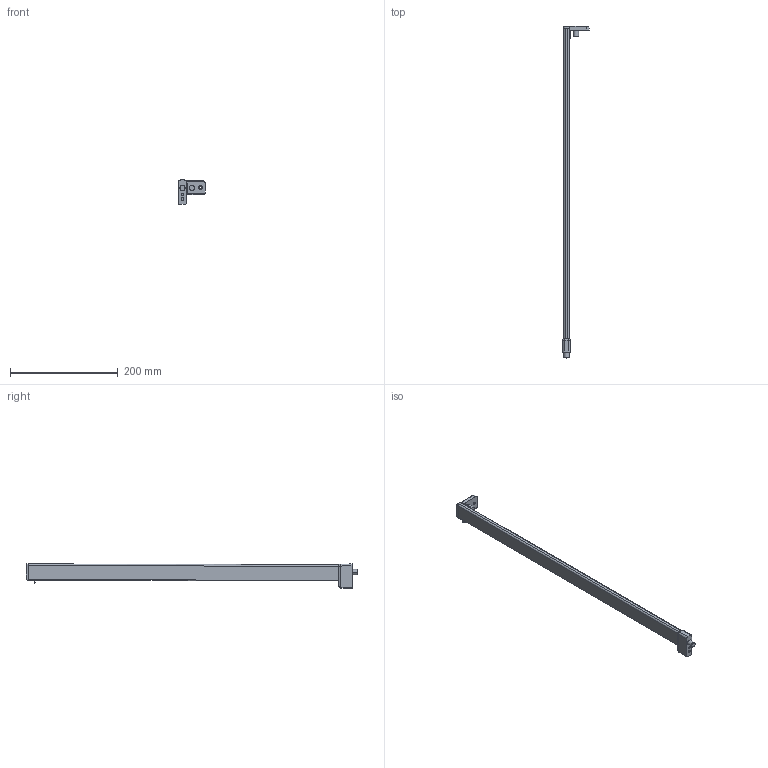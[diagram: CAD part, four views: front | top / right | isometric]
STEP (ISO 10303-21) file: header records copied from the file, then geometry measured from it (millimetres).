
FILE_DESCRIPTION (( 'STEP AP214' ), '1' );
FILE_NAME ('_2S_REL_7606_NL600_LI.step', '2010-07-01T14:41:42', ( 'grass' ), ( '' ), 'SwSTEP 2.0', 'SolidWorks 2009', '' );
FILE_SCHEMA (( 'AUTOMOTIVE_DESIGN' ));
Length unit declared in the file: millimetre
Products named in the file (1): _2S_REL_7606_NL600_LI
Bounding box: 49.25 x 615.5 x 45.4 mm (x, y, z)
Volume: 200664 mm3; surface area: 53080.9 mm2
Topology: 2 solids, 2 shells, 120 faces, 292 edges, 178 vertices
Faces by surface type: cylinder 58, plane 40, bspline 10, torus 6, cone 4, sphere 2
Entity records: 4528 total; most frequent: CARTESIAN_POINT 1803, ORIENTED_EDGE 580, DIRECTION 546, EDGE_CURVE 290, AXIS2_PLACEMENT_3D 203, VERTEX_POINT 178, VECTOR 140, LINE 140
